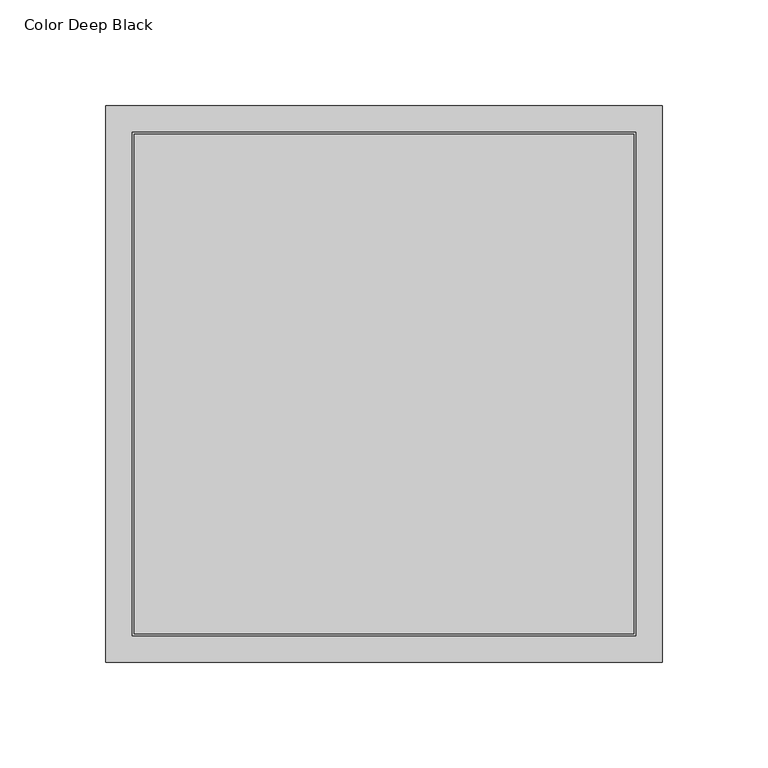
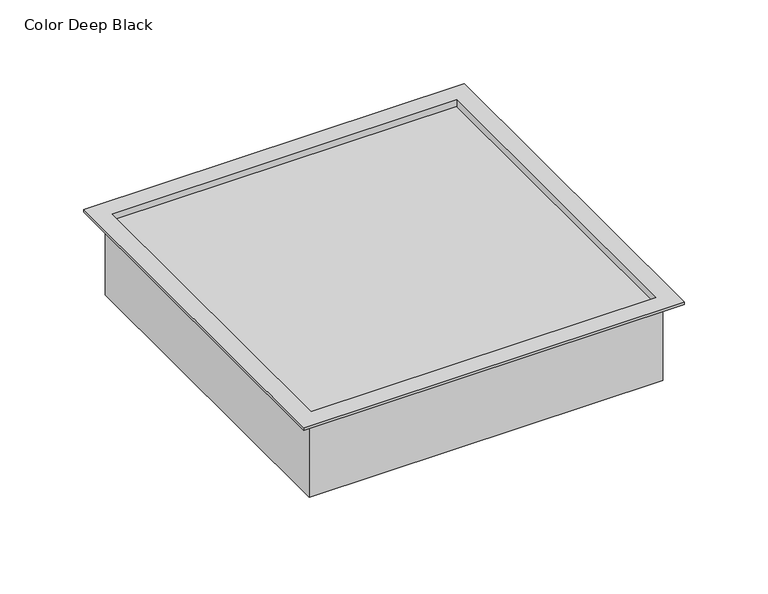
"""IFC4 building model written with IfcOpenShell, lengths in millimetres: proxy geometry, Electrical_Installation_Hager_VE-EE_Cover-VDQ12 : Color Deep Black."""

import ifcopenshell
import ifcopenshell.guid

model = None  # the IFC model being written
_history = None  # IfcOwnerHistory: only IFC2X3 demands one
_inside = {}  # id of a spatial element -> (the spatial element, [elements in it])
_under = {}  # id of a project, library or spatial element -> (it, [spatial elements below it])
_declared = {}  # id of a project -> (the project, [libraries it declares])
_typed = {}  # id of a type object -> (the type object, [elements of that type])
_made_of = {}  # id of a material, layer set ... -> (it, [elements and type objects made of it])


def new_model(schema):
    """Start an empty IFC model of exactly this schema.

    Asked for "IFC4X3", IfcOpenShell would pick the latest addendum, in which some entities
    have other attributes; the version numbers below select the first issue.
    IFC2X3 requires an IfcOwnerHistory on every rooted entity: one is made here for all.
    """
    global model, _history
    if schema == "IFC4X3":
        model = ifcopenshell.file(schema_version=(4, 3, 0, 0))
    else:
        model = ifcopenshell.file(schema=schema)
    _inside.clear()
    _under.clear()
    _declared.clear()
    _typed.clear()
    _made_of.clear()
    _history = None
    if model.schema == "IFC2X3":
        org = make("IfcOrganization", Name="unknown")
        user = make(
            "IfcPersonAndOrganization",
            ThePerson=make("IfcPerson", FamilyName="unknown"),
            TheOrganization=org,
        )
        app = make(
            "IfcApplication",
            ApplicationDeveloper=org,
            Version="unknown",
            ApplicationFullName="unknown",
            ApplicationIdentifier="unknown",
        )
        _history = make(
            "IfcOwnerHistory",
            OwningUser=user,
            OwningApplication=app,
            ChangeAction="ADDED",
            CreationDate=0,
        )
    return model


def make(cls, **values):
    """One entity of the class cls with the attributes given. An attribute that is None is left unset."""
    return model.create_entity(
        cls, **{name: value for name, value in values.items() if value is not None}
    )


def rooted(cls, **values):
    """An entity with a GlobalId (a new one), such as an element, a storey or a relation."""
    return make(cls, GlobalId=ifcopenshell.guid.new(), OwnerHistory=_history, **values)


def si_unit(unit_type, name, prefix=None):
    """IfcSIUnit, for example si_unit("LENGTHUNIT", "METRE", prefix="MILLI")."""
    return make("IfcSIUnit", UnitType=unit_type, Prefix=prefix, Name=name)


def assignment(units):
    """IfcUnitAssignment: the units of a project."""
    return None if units is None else make("IfcUnitAssignment", Units=units)


def point(xyz):
    """IfcCartesianPoint."""
    return None if xyz is None else make("IfcCartesianPoint", Coordinates=xyz)


def direction(xyz):
    """IfcDirection."""
    return None if xyz is None else make("IfcDirection", DirectionRatios=xyz)


def frame(location, z_axis=None, x_axis=None):
    """IfcAxis2Placement3D, a coordinate frame: its origin and axes. An axis left out is left unset."""
    return make(
        "IfcAxis2Placement3D",
        Location=point(location),
        Axis=direction(z_axis),
        RefDirection=direction(x_axis),
    )


def origin():
    """The frame at (0, 0, 0) with its axes left unset."""
    return frame((0.0, 0.0, 0.0))


def place(relative_to, where):
    """IfcLocalPlacement: puts the frame where relative to a parent placement (None: the world)."""
    return make(
        "IfcLocalPlacement", PlacementRelTo=relative_to, RelativePlacement=where
    )


def context(
    kind, dimensions, precision=None, world=None, true_north=None, identifier=None
):
    """IfcGeometricRepresentationContext, for example the 3D "Model" context."""
    return make(
        "IfcGeometricRepresentationContext",
        ContextIdentifier=identifier,
        ContextType=kind,
        CoordinateSpaceDimension=dimensions,
        Precision=precision,
        WorldCoordinateSystem=world,
        TrueNorth=true_north,
    )


def project(units=None, contexts=None):
    """IfcProject with its units and contexts."""
    return rooted(
        "IfcProject",
        Name="project",
        RepresentationContexts=contexts,
        UnitsInContext=assignment(units),
    )


def spatial(cls, under=None, at=None, **own):
    """A site, building, storey or space (cls), placed at a placement, below another one or the project."""
    s = rooted(cls, ObjectPlacement=at, **own)
    if under is not None:
        _under.setdefault(under.id(), (under, []))[1].append(s)
    return s


def polyline(points):
    """IfcPolyline through the points."""
    return make("IfcPolyline", Points=[point(p) for p in points])


def outline(outer, holes=None, kind="AREA"):
    """IfcArbitraryClosedProfileDef: a profile drawn as a closed curve; with holes, ...WithVoids."""
    if holes is None:
        return make("IfcArbitraryClosedProfileDef", ProfileType=kind, OuterCurve=outer)
    return make(
        "IfcArbitraryProfileDefWithVoids",
        ProfileType=kind,
        OuterCurve=outer,
        InnerCurves=holes,
    )


def extrude(swept, where, along, depth):
    """IfcExtrudedAreaSolid: the profile swept, set in the frame where, extruded along a direction by depth."""
    return make(
        "IfcExtrudedAreaSolid",
        SweptArea=swept,
        Position=where,
        ExtrudedDirection=direction(along),
        Depth=depth,
    )


def faces_of(points, faces, orient=None, outer=None):
    """IfcFace entities. A face is a list of loops; a loop is a list of indices into points, from 0.

    orient and outer hold one flag for each loop. By default every Orientation is true, the
    first loop of a face is its IfcFaceOuterBound and the others are IfcFaceBound.
    """
    made = []
    for i, loops in enumerate(faces):
        bounds = []
        for j, loop in enumerate(loops):
            is_outer = j == 0 if outer is None else outer[i][j]
            bounds.append(
                make(
                    "IfcFaceOuterBound" if is_outer else "IfcFaceBound",
                    Bound=make("IfcPolyLoop", Polygon=[points[k] for k in loop]),
                    Orientation=True if orient is None else orient[i][j],
                )
            )
        made.append(make("IfcFace", Bounds=bounds))
    return made


def faceted_brep(points, faces, orient=None, outer=None, voids=None):
    """IfcFacetedBrep: a solid bounded by flat faces; with voids (closed shells), ...WithVoids."""
    shared = [point(p) for p in points]
    hull = make("IfcClosedShell", CfsFaces=faces_of(shared, faces, orient, outer))
    if voids is None:
        return make("IfcFacetedBrep", Outer=hull)
    return make(
        "IfcFacetedBrepWithVoids",
        Outer=hull,
        Voids=[
            make(cls, CfsFaces=faces_of(shared, fs, o, b)) for cls, fs, o, b in voids
        ],
    )


def shape(context_of_items, identifier, shape_type, items):
    """IfcShapeRepresentation: the items that make up one representation, for example the "Body"."""
    return make(
        "IfcShapeRepresentation",
        ContextOfItems=context_of_items,
        RepresentationIdentifier=identifier,
        RepresentationType=shape_type,
        Items=items,
    )


def source(mapping_origin, context_of_items, identifier, shape_type, items):
    """IfcRepresentationMap: a shape defined once, which mapped items show again and again."""
    return make(
        "IfcRepresentationMap",
        MappingOrigin=mapping_origin,
        MappedRepresentation=shape(context_of_items, identifier, shape_type, items),
    )


def transform(
    local_origin,
    x_axis=None,
    y_axis=None,
    z_axis=None,
    scale=None,
    scale2=None,
    scale3=None,
    uniform=True,
):
    """IfcCartesianTransformationOperator3D, or its non-uniform kind. x_axis, y_axis, z_axis: its Axis1, 2, 3."""
    if uniform:
        return make(
            "IfcCartesianTransformationOperator3D",
            Axis1=direction(x_axis),
            Axis2=direction(y_axis),
            LocalOrigin=point(local_origin),
            Scale=scale,
            Axis3=direction(z_axis),
        )
    return make(
        "IfcCartesianTransformationOperator3DnonUniform",
        Axis1=direction(x_axis),
        Axis2=direction(y_axis),
        LocalOrigin=point(local_origin),
        Scale=scale,
        Axis3=direction(z_axis),
        Scale2=scale2,
        Scale3=scale3,
    )


def mapped(mapping_source, mapping_target):
    """IfcMappedItem: shows the shape of a source again, moved by a transform."""
    return make(
        "IfcMappedItem", MappingSource=mapping_source, MappingTarget=mapping_target
    )


def made_of(thing, what):
    """Note that an element or type object is made of a material, layer set ...; save() writes the relation."""
    if what is not None:
        _made_of.setdefault(what.id(), (what, []))[1].append(thing)
    return thing


def element(
    cls,
    number,
    at=None,
    inside=None,
    cuts=None,
    type_object=None,
    material=None,
    context=None,
    identifier="Body",
    shape_type=None,
    held_by="IfcProductDefinitionShape",
    body=None,
    shapes=None,
    **own,
):
    """One element of the class cls, such as IfcWall. Its Tag is "e" and its number.

    at: its placement. inside: the storey or other place that contains it. cuts: it is an
    opening in that element (IfcRelVoidsElement). A single representation is given by context,
    identifier, shape_type and body (its items); several are given by shapes. held_by: the class
    of the entity that holds the representations. save() writes the other relations.
    """
    e = rooted(cls, Tag="e%d" % number, ObjectPlacement=at, **own)
    if body is not None:
        shapes = [shape(context, identifier, shape_type, body)]
    if shapes is not None:
        e.Representation = make(held_by, Representations=shapes)
    if inside is not None:
        _inside.setdefault(inside.id(), (inside, []))[1].append(e)
    if cuts is not None:
        rooted(
            "IfcRelVoidsElement", RelatingBuildingElement=cuts, RelatedOpeningElement=e
        )
    if type_object is not None:
        _typed.setdefault(type_object.id(), (type_object, []))[1].append(e)
    return made_of(e, material)


def aggregate(whole, parts):
    """IfcRelAggregates: a whole, such as a stair, and the parts it consists of."""
    return rooted("IfcRelAggregates", RelatingObject=whole, RelatedObjects=parts)


def save(model, path):
    """Write the relations noted so far, then the file.

    IfcRelAggregates (storeys below a building ...), IfcRelContainedInSpatialStructure (elements
    in a storey), IfcRelDefinesByType, IfcRelAssociatesMaterial and IfcRelDeclares: one each for
    every whole, place, type object, material and project.
    """
    for whole, parts in _under.values():
        aggregate(whole, parts)
    for where, things in _inside.values():
        rooted(
            "IfcRelContainedInSpatialStructure",
            RelatedElements=things,
            RelatingStructure=where,
        )
    for kind, things in _typed.values():
        rooted("IfcRelDefinesByType", RelatedObjects=things, RelatingType=kind)
    for what, things in _made_of.values():
        rooted("IfcRelAssociatesMaterial", RelatedObjects=things, RelatingMaterial=what)
    for by, libraries in _declared.values():
        rooted("IfcRelDeclares", RelatingContext=by, RelatedDefinitions=libraries)
    model.write(path)


def color_deep_black_c19cb628(model_context):
    return source(origin(), model_context, "Body", "SolidModel", [
        faceted_brep([(131.5, 131.5, 2.0), (-131.5, 131.5, 2.0), (-131.5, -131.5, 2.0), (131.5, -131.5, 2.0), (119.0, 119.0195312, 2.0), (119.0, -119.0195312, 2.0), (-119.0, -119.0195312, 2.0), (-119.0, 119.0195312, 2.0), (131.5, 131.5, 0.0), (131.5, -131.5, 0.0), (-131.5, -131.5, 0.0), (-131.5, 131.5, 0.0), (122.0, 122.0, 0.0), (-122.0, 122.0, 0.0), (-122.0, -122.0, 0.0), (122.0, -122.0, 0.0), (-119.0, 119.0195312, -58.0), (119.0, 119.0195312, -58.0), (-119.0, -119.0195312, -58.0), (119.0, -119.0195312, -58.0), (122.0, 122.0, -58.0), (122.0, -122.0, -58.0), (-122.0, -122.0, -58.0), (-122.0, 122.0, -58.0)], [[[0, 1, 2, 3], [4, 5, 6, 7]], [[8, 9, 10, 11], [12, 13, 14, 15]], [[4, 7, 16, 17]], [[16, 7, 6, 18]], [[18, 6, 5, 19]], [[19, 5, 4, 17]], [[1, 0, 8, 11]], [[2, 1, 11, 10]], [[3, 2, 10, 9]], [[0, 3, 9, 8]], [[20, 21, 22, 23], [17, 16, 18, 19]], [[20, 23, 13, 12]], [[23, 22, 14, 13]], [[22, 21, 15, 14]], [[21, 20, 12, 15]]]),
        extrude(outline(polyline([(-119.0, -119.0195312), (-119.0, 119.0195312), (119.0, 119.0195312), (119.0, -119.0195312), (-119.0, -119.0195312)])), frame((0.0, 0.0, -8.0), z_axis=(0.0, 0.0, 1.0), x_axis=(1.0, 0.0, 0.0)), (0.0, 0.0, 1.0), 5.0),
        extrude(outline(polyline([(-118.0, 118.0), (118.0, 118.0), (118.0, -118.0), (-118.0, -118.0), (-118.0, 118.0)])), frame((0.0, 0.0, -3.0), z_axis=(0.0, 0.0, 1.0), x_axis=(1.0, 0.0, 0.0)), (0.0, 0.0, 1.0), 1.0),
    ])


if __name__ == "__main__":
    model = new_model("IFC4")
    model_context = context("Model", 3, world=origin())
    ifc_project = project(units=[si_unit("LENGTHUNIT", "METRE", prefix="MILLI")], contexts=[model_context])
    site = spatial("IfcSite", under=ifc_project)
    building = spatial("IfcBuilding", under=site)
    placement = place(None, origin())
    color_deep_black_shape = color_deep_black_c19cb628(model_context)
    element("IfcBuildingElementProxy", 1, Name="Electrical_Installation_Hager_VE-EE_Cover-VDQ12 : Color Deep Black", ObjectType="Electrical_Installation_Hager_VE-EE_Cover-VDQ12 : Color Deep Black", at=placement, inside=building, context=model_context, shape_type="MappedRepresentation", body=[
        mapped(color_deep_black_shape, transform((0.0, 0.0, 0.0), x_axis=(1.0, 0.0, 0.0), y_axis=(0.0, 1.0, 0.0), z_axis=(0.0, 0.0, 1.0))),
    ])
    save(model, "model.ifc")
